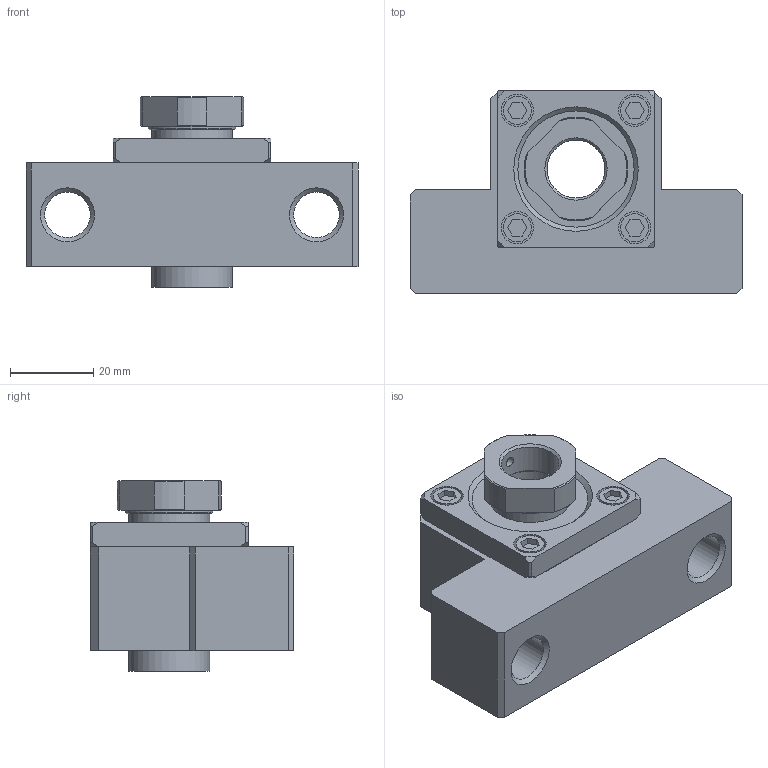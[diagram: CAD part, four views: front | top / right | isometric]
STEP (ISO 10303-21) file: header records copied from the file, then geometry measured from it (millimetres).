
FILE_DESCRIPTION(/* description */ ('STEP AP214'),/* implementation_level */ '2;1');
FILE_NAME(/* name */ 'EK15______CAD_NO_Yes',/* time_stamp */ '2026-09-17T12:56:39+02:00',/* author */ ('License CC BY-ND 4.0'),/* organization */ ('CADENAS'),/* preprocessor_version */ 'ST-DEVELOPER v20',/* originating_system */ 'PARTsolutions',/* authorisation */ ' ');
FILE_SCHEMA (('AUTOMOTIVE_DESIGN {1 0 10303 214 3 1 1}'));
Length unit declared in the file: millimetre
Products named in the file (4): EK15______CAD_NO_Yes; EK 15; EK 15collar; RN 15
Assembly tree (4 placements, depth 2):
  EK15______CAD_NO_Yes
    EK 15
    EK 15collar  x2
    RN 15
Bounding box: 80 x 49 x 46 mm (x, y, z)
Volume: 75267.7 mm3; surface area: 20532.9 mm2
Topology: 4 solids, 4 shells, 142 faces, 330 edges, 218 vertices
Faces by surface type: plane 86, cylinder 31, cone 25
Full cylindrical faces by diameter (mm): 2.459 x1, 3 x1, 6.8 x4, 7.8 x4, 11 x2, 13.917 x1, 15 x3, 19.5 x4, 21 x1, 28 x1, 28.1 x1
Entity records: 3959 total; most frequent: CARTESIAN_POINT 775, DIRECTION 626, ORIENTED_EDGE 584, EDGE_CURVE 292, AXIS2_PLACEMENT_3D 229, VERTEX_POINT 212, EDGE_LOOP 200, FACE_BOUND 200
